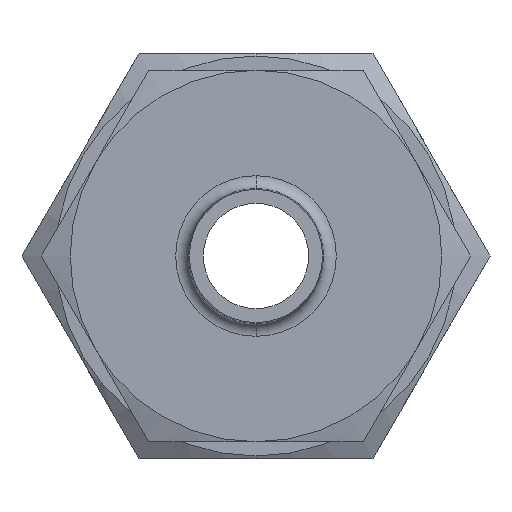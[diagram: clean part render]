
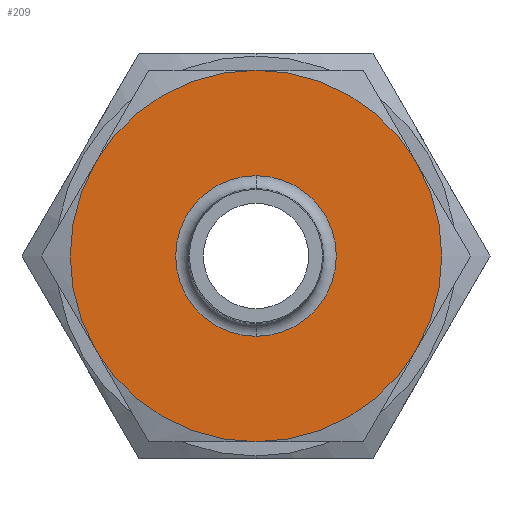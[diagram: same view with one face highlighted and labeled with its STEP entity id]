
A CAD part, left-side view. The second image highlights one B-rep face of the part: STEP entity #209.
In plain terms, the highlighted planar face has unit normal (-1, 0, 0).
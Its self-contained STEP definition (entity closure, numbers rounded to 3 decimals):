
#78 = VERTEX_POINT ( 'NONE', #845 ) ;
#132 = EDGE_CURVE ( 'NONE', #133, #134, #888, .T. ) ;
#133 = VERTEX_POINT ( 'NONE', #883 ) ;
#134 = VERTEX_POINT ( 'NONE', #882 ) ;
#209 = ADVANCED_FACE ( 'NONE', ( #1212, #1210 ), #1203, .F. ) ;
#210 = EDGE_LOOP ( 'NONE', ( #211, #213 ) ) ;
#211 = ORIENTED_EDGE ( 'NONE', *, *, #212, .T. ) ;
#212 = EDGE_CURVE ( 'NONE', #134, #133, #1198, .T. ) ;
#213 = ORIENTED_EDGE ( 'NONE', *, *, #132, .T. ) ;
#214 = EDGE_LOOP ( 'NONE', ( #215, #464, #466, #468, #470, #472 ) ) ;
#215 = ORIENTED_EDGE ( 'NONE', *, *, #216, .F. ) ;
#216 = EDGE_CURVE ( 'NONE', #410, #234, #998, .T. ) ;
#234 = VERTEX_POINT ( 'NONE', #1061 ) ;
#366 = VERTEX_POINT ( 'NONE', #1440 ) ;
#383 = VERTEX_POINT ( 'NONE', #1236 ) ;
#403 = VERTEX_POINT ( 'NONE', #1564 ) ;
#410 = VERTEX_POINT ( 'NONE', #1548 ) ;
#464 = ORIENTED_EDGE ( 'NONE', *, *, #465, .F. ) ;
#465 = EDGE_CURVE ( 'NONE', #366, #410, #1677, .T. ) ;
#466 = ORIENTED_EDGE ( 'NONE', *, *, #467, .F. ) ;
#467 = EDGE_CURVE ( 'NONE', #383, #366, #1666, .T. ) ;
#468 = ORIENTED_EDGE ( 'NONE', *, *, #469, .F. ) ;
#469 = EDGE_CURVE ( 'NONE', #78, #383, #1806, .T. ) ;
#470 = ORIENTED_EDGE ( 'NONE', *, *, #471, .T. ) ;
#471 = EDGE_CURVE ( 'NONE', #78, #403, #1737, .T. ) ;
#472 = ORIENTED_EDGE ( 'NONE', *, *, #473, .F. ) ;
#473 = EDGE_CURVE ( 'NONE', #234, #403, #1732, .T. ) ;
#845 = CARTESIAN_POINT ( 'NONE',  ( 0., 0., 17.465 ) ) ;
#882 = CARTESIAN_POINT ( 'NONE',  ( 0., 0., -7.55 ) ) ;
#883 = CARTESIAN_POINT ( 'NONE',  ( 0., 0., 7.55 ) ) ;
#884 = DIRECTION ( 'NONE',  ( 0., 0., -1. ) ) ;
#885 = DIRECTION ( 'NONE',  ( 1., 0., 0. ) ) ;
#886 = CARTESIAN_POINT ( 'NONE',  ( 0., 0., 0. ) ) ;
#887 = AXIS2_PLACEMENT_3D ( 'NONE', #886, #885, #884 ) ;
#888 = CIRCLE ( 'NONE', #887, 7.55 ) ;
#994 = DIRECTION ( 'NONE',  ( 0., 0., -1. ) ) ;
#995 = DIRECTION ( 'NONE',  ( 1., 0., 0. ) ) ;
#996 = CARTESIAN_POINT ( 'NONE',  ( 0., 0., 0. ) ) ;
#997 = AXIS2_PLACEMENT_3D ( 'NONE', #996, #995, #994 ) ;
#998 = CIRCLE ( 'NONE', #997, 17.465 ) ;
#999 = DIRECTION ( 'NONE',  ( 0., 0., -1. ) ) ;
#1000 = DIRECTION ( 'NONE',  ( 1., 0., 0. ) ) ;
#1001 = CARTESIAN_POINT ( 'NONE',  ( 0., 0., 0. ) ) ;
#1002 = AXIS2_PLACEMENT_3D ( 'NONE', #1001, #1000, #999 ) ;
#1061 = CARTESIAN_POINT ( 'NONE',  ( 0., 15.125, -8.732 ) ) ;
#1198 = CIRCLE ( 'NONE', #1002, 7.55 ) ;
#1199 = DIRECTION ( 'NONE',  ( 0., 0., -1. ) ) ;
#1200 = DIRECTION ( 'NONE',  ( 1., 0., 0. ) ) ;
#1201 = CARTESIAN_POINT ( 'NONE',  ( 0., 20.167, 0. ) ) ;
#1202 = AXIS2_PLACEMENT_3D ( 'NONE', #1201, #1200, #1199 ) ;
#1203 = PLANE ( 'NONE',  #1202 ) ;
#1210 = FACE_OUTER_BOUND ( 'NONE', #214, .T. ) ;
#1212 = FACE_BOUND ( 'NONE', #210, .T. ) ;
#1236 = CARTESIAN_POINT ( 'NONE',  ( 0., -15.125, 8.732 ) ) ;
#1440 = CARTESIAN_POINT ( 'NONE',  ( 0., -15.125, -8.733 ) ) ;
#1548 = CARTESIAN_POINT ( 'NONE',  ( 0., 0., -17.465 ) ) ;
#1564 = CARTESIAN_POINT ( 'NONE',  ( 0., 15.125, 8.733 ) ) ;
#1662 = DIRECTION ( 'NONE',  ( 0., 0., -1. ) ) ;
#1663 = DIRECTION ( 'NONE',  ( 1., 0., 0. ) ) ;
#1664 = CARTESIAN_POINT ( 'NONE',  ( 0., 0., 0. ) ) ;
#1665 = AXIS2_PLACEMENT_3D ( 'NONE', #1664, #1663, #1662 ) ;
#1666 = CIRCLE ( 'NONE', #1665, 17.465 ) ;
#1667 = DIRECTION ( 'NONE',  ( 0., 0., -1. ) ) ;
#1668 = DIRECTION ( 'NONE',  ( 1., 0., 0. ) ) ;
#1669 = CARTESIAN_POINT ( 'NONE',  ( 0., 0., 0. ) ) ;
#1670 = AXIS2_PLACEMENT_3D ( 'NONE', #1669, #1668, #1667 ) ;
#1677 = CIRCLE ( 'NONE', #1670, 17.465 ) ;
#1727 = DIRECTION ( 'NONE',  ( 0., 0., -1. ) ) ;
#1728 = DIRECTION ( 'NONE',  ( 1., 0., 0. ) ) ;
#1729 = CARTESIAN_POINT ( 'NONE',  ( 0., 0., 0. ) ) ;
#1730 = CARTESIAN_POINT ( 'NONE',  ( 0., 0., 0. ) ) ;
#1731 = AXIS2_PLACEMENT_3D ( 'NONE', #1730, #1812, #1811 ) ;
#1732 = CIRCLE ( 'NONE', #1731, 17.465 ) ;
#1733 = DIRECTION ( 'NONE',  ( 0., 0., 1. ) ) ;
#1734 = DIRECTION ( 'NONE',  ( -1., 0., 0. ) ) ;
#1735 = CARTESIAN_POINT ( 'NONE',  ( 0., 0., 0. ) ) ;
#1736 = AXIS2_PLACEMENT_3D ( 'NONE', #1735, #1734, #1733 ) ;
#1737 = CIRCLE ( 'NONE', #1736, 17.465 ) ;
#1738 = AXIS2_PLACEMENT_3D ( 'NONE', #1729, #1728, #1727 ) ;
#1806 = CIRCLE ( 'NONE', #1738, 17.465 ) ;
#1811 = DIRECTION ( 'NONE',  ( 0., 0., -1. ) ) ;
#1812 = DIRECTION ( 'NONE',  ( 1., 0., 0. ) ) ;
